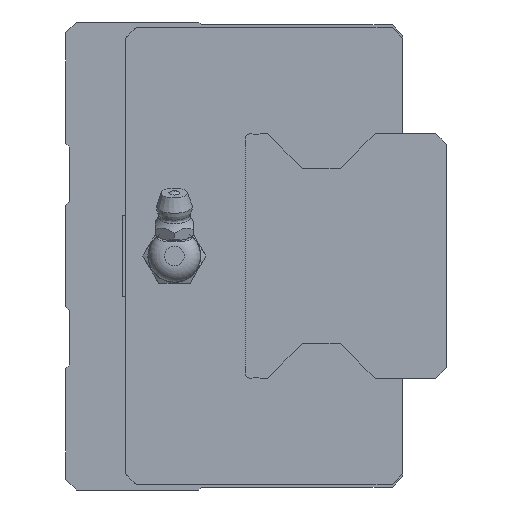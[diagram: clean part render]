
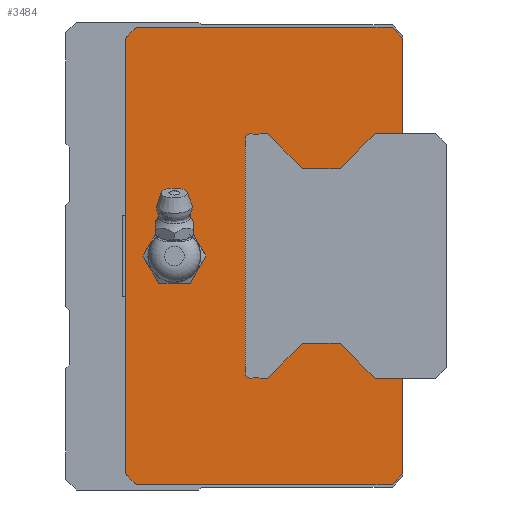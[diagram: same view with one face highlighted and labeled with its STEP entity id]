
A CAD part, left-side view. The second image highlights one B-rep face of the part: STEP entity #3484.
In plain terms, the highlighted planar face has unit normal (-1, 0, 0).
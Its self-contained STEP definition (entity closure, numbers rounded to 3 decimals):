
#157=CIRCLE('',#3797,4.989);
#158=CIRCLE('',#3798,0.26);
#159=CIRCLE('',#3799,0.26);
#160=CIRCLE('',#3800,1.);
#161=CIRCLE('',#3801,1.);
#162=CIRCLE('',#3802,0.26);
#163=CIRCLE('',#3803,0.26);
#671=ORIENTED_EDGE('',*,*,#1439,.T.);
#672=ORIENTED_EDGE('',*,*,#1440,.T.);
#673=ORIENTED_EDGE('',*,*,#1433,.F.);
#674=ORIENTED_EDGE('',*,*,#1407,.F.);
#675=ORIENTED_EDGE('',*,*,#1403,.F.);
#676=ORIENTED_EDGE('',*,*,#1395,.F.);
#677=ORIENTED_EDGE('',*,*,#1425,.F.);
#678=ORIENTED_EDGE('',*,*,#1381,.F.);
#679=ORIENTED_EDGE('',*,*,#1418,.F.);
#680=ORIENTED_EDGE('',*,*,#1415,.F.);
#681=ORIENTED_EDGE('',*,*,#1435,.F.);
#682=ORIENTED_EDGE('',*,*,#1441,.T.);
#683=ORIENTED_EDGE('',*,*,#1442,.T.);
#684=ORIENTED_EDGE('',*,*,#1443,.F.);
#685=ORIENTED_EDGE('',*,*,#1444,.T.);
#686=ORIENTED_EDGE('',*,*,#1445,.F.);
#687=ORIENTED_EDGE('',*,*,#1446,.T.);
#688=ORIENTED_EDGE('',*,*,#1447,.T.);
#689=ORIENTED_EDGE('',*,*,#1448,.T.);
#690=ORIENTED_EDGE('',*,*,#1449,.T.);
#691=ORIENTED_EDGE('',*,*,#1450,.T.);
#692=ORIENTED_EDGE('',*,*,#1451,.T.);
#693=ORIENTED_EDGE('',*,*,#1452,.T.);
#694=ORIENTED_EDGE('',*,*,#1453,.T.);
#695=ORIENTED_EDGE('',*,*,#1454,.T.);
#696=ORIENTED_EDGE('',*,*,#1455,.T.);
#697=ORIENTED_EDGE('',*,*,#1456,.T.);
#698=ORIENTED_EDGE('',*,*,#1457,.F.);
#699=ORIENTED_EDGE('',*,*,#1458,.T.);
#700=ORIENTED_EDGE('',*,*,#1459,.F.);
#701=ORIENTED_EDGE('',*,*,#1460,.T.);
#1381=EDGE_CURVE('',#1806,#1807,#2126,.T.);
#1395=EDGE_CURVE('',#1819,#1820,#2140,.T.);
#1403=EDGE_CURVE('',#1820,#1826,#2147,.T.);
#1407=EDGE_CURVE('',#1826,#1828,#2151,.T.);
#1415=EDGE_CURVE('',#1835,#1836,#2159,.T.);
#1418=EDGE_CURVE('',#1836,#1806,#2162,.T.);
#1425=EDGE_CURVE('',#1807,#1819,#2168,.T.);
#1433=EDGE_CURVE('',#1828,#1841,#2176,.T.);
#1435=EDGE_CURVE('',#1843,#1835,#2178,.T.);
#1439=EDGE_CURVE('',#1846,#1846,#157,.T.);
#1440=EDGE_CURVE('',#1847,#1841,#2182,.T.);
#1441=EDGE_CURVE('',#1843,#1848,#2183,.T.);
#1442=EDGE_CURVE('',#1848,#1849,#2184,.T.);
#1443=EDGE_CURVE('',#1850,#1849,#158,.T.);
#1444=EDGE_CURVE('',#1850,#1851,#2185,.T.);
#1445=EDGE_CURVE('',#1852,#1851,#159,.T.);
#1446=EDGE_CURVE('',#1852,#1853,#2186,.T.);
#1447=EDGE_CURVE('',#1853,#1854,#2187,.T.);
#1448=EDGE_CURVE('',#1854,#1855,#2188,.T.);
#1449=EDGE_CURVE('',#1855,#1856,#2189,.T.);
#1450=EDGE_CURVE('',#1856,#1857,#160,.T.);
#1451=EDGE_CURVE('',#1857,#1858,#2190,.T.);
#1452=EDGE_CURVE('',#1858,#1859,#161,.T.);
#1453=EDGE_CURVE('',#1859,#1860,#2191,.T.);
#1454=EDGE_CURVE('',#1860,#1861,#2192,.T.);
#1455=EDGE_CURVE('',#1861,#1862,#2193,.T.);
#1456=EDGE_CURVE('',#1862,#1863,#2194,.T.);
#1457=EDGE_CURVE('',#1864,#1863,#162,.T.);
#1458=EDGE_CURVE('',#1864,#1865,#2195,.T.);
#1459=EDGE_CURVE('',#1866,#1865,#163,.T.);
#1460=EDGE_CURVE('',#1866,#1847,#2196,.T.);
#1806=VERTEX_POINT('',#5408);
#1807=VERTEX_POINT('',#5410);
#1819=VERTEX_POINT('',#5436);
#1820=VERTEX_POINT('',#5438);
#1826=VERTEX_POINT('',#5454);
#1828=VERTEX_POINT('',#5461);
#1835=VERTEX_POINT('',#5476);
#1836=VERTEX_POINT('',#5478);
#1841=VERTEX_POINT('',#5503);
#1843=VERTEX_POINT('',#5511);
#1846=VERTEX_POINT('',#5520);
#1847=VERTEX_POINT('',#5522);
#1848=VERTEX_POINT('',#5524);
#1849=VERTEX_POINT('',#5526);
#1850=VERTEX_POINT('',#5528);
#1851=VERTEX_POINT('',#5530);
#1852=VERTEX_POINT('',#5532);
#1853=VERTEX_POINT('',#5534);
#1854=VERTEX_POINT('',#5536);
#1855=VERTEX_POINT('',#5538);
#1856=VERTEX_POINT('',#5540);
#1857=VERTEX_POINT('',#5542);
#1858=VERTEX_POINT('',#5544);
#1859=VERTEX_POINT('',#5546);
#1860=VERTEX_POINT('',#5548);
#1861=VERTEX_POINT('',#5550);
#1862=VERTEX_POINT('',#5552);
#1863=VERTEX_POINT('',#5554);
#1864=VERTEX_POINT('',#5556);
#1865=VERTEX_POINT('',#5558);
#1866=VERTEX_POINT('',#5560);
#2126=LINE('',#5409,#2440);
#2140=LINE('',#5437,#2454);
#2147=LINE('',#5453,#2461);
#2151=LINE('',#5460,#2465);
#2159=LINE('',#5477,#2473);
#2162=LINE('',#5482,#2476);
#2168=LINE('',#5493,#2482);
#2176=LINE('',#5508,#2490);
#2178=LINE('',#5513,#2492);
#2182=LINE('',#5521,#2496);
#2183=LINE('',#5523,#2497);
#2184=LINE('',#5525,#2498);
#2185=LINE('',#5529,#2499);
#2186=LINE('',#5533,#2500);
#2187=LINE('',#5535,#2501);
#2188=LINE('',#5537,#2502);
#2189=LINE('',#5539,#2503);
#2190=LINE('',#5543,#2504);
#2191=LINE('',#5547,#2505);
#2192=LINE('',#5549,#2506);
#2193=LINE('',#5551,#2507);
#2194=LINE('',#5553,#2508);
#2195=LINE('',#5557,#2509);
#2196=LINE('',#5561,#2510);
#2440=VECTOR('',#4390,1000.);
#2454=VECTOR('',#4406,1000.);
#2461=VECTOR('',#4419,1000.);
#2465=VECTOR('',#4425,1000.);
#2473=VECTOR('',#4435,1000.);
#2476=VECTOR('',#4440,1000.);
#2482=VECTOR('',#4454,1000.);
#2490=VECTOR('',#4466,1000.);
#2492=VECTOR('',#4470,1000.);
#2496=VECTOR('',#4478,1000.);
#2497=VECTOR('',#4479,1000.);
#2498=VECTOR('',#4480,1000.);
#2499=VECTOR('',#4483,1000.);
#2500=VECTOR('',#4486,1000.);
#2501=VECTOR('',#4487,1000.);
#2502=VECTOR('',#4488,1000.);
#2503=VECTOR('',#4489,1000.);
#2504=VECTOR('',#4492,1000.);
#2505=VECTOR('',#4495,1000.);
#2506=VECTOR('',#4496,1000.);
#2507=VECTOR('',#4497,1000.);
#2508=VECTOR('',#4498,1000.);
#2509=VECTOR('',#4501,1000.);
#2510=VECTOR('',#4504,1000.);
#2759=EDGE_LOOP('',(#671));
#2760=EDGE_LOOP('',(#672,#673,#674,#675,#676,#677,#678,#679,#680,#681,#682,
#683,#684,#685,#686,#687,#688,#689,#690,#691,#692,#693,#694,#695,#696,#697,
#698,#699,#700,#701));
#3078=FACE_BOUND('',#2759,.T.);
#3079=FACE_BOUND('',#2760,.T.);
#3316=PLANE('',#3796);
#3484=ADVANCED_FACE('',(#3078,#3079),#3316,.F.);
#3796=AXIS2_PLACEMENT_3D('',#5518,#4474,#4475);
#3797=AXIS2_PLACEMENT_3D('',#5519,#4476,#4477);
#3798=AXIS2_PLACEMENT_3D('',#5527,#4481,#4482);
#3799=AXIS2_PLACEMENT_3D('',#5531,#4484,#4485);
#3800=AXIS2_PLACEMENT_3D('',#5541,#4490,#4491);
#3801=AXIS2_PLACEMENT_3D('',#5545,#4493,#4494);
#3802=AXIS2_PLACEMENT_3D('',#5555,#4499,#4500);
#3803=AXIS2_PLACEMENT_3D('',#5559,#4502,#4503);
#4390=DIRECTION('',(0.,0.707,0.707));
#4406=DIRECTION('',(0.,-0.707,0.707));
#4419=DIRECTION('',(0.,-1.,0.));
#4425=DIRECTION('',(0.,-0.707,-0.707));
#4435=DIRECTION('',(0.,0.707,-0.707));
#4440=DIRECTION('',(0.,1.,0.));
#4454=DIRECTION('',(0.,0.,1.));
#4466=DIRECTION('',(0.,0.,-1.));
#4470=DIRECTION('',(0.,0.,-1.));
#4474=DIRECTION('',(1.,0.,0.));
#4475=DIRECTION('',(0.,0.,-1.));
#4476=DIRECTION('',(1.,0.,0.));
#4477=DIRECTION('',(0.,0.,-1.));
#4478=DIRECTION('',(0.,-1.,0.));
#4479=DIRECTION('',(0.,1.,0.));
#4480=DIRECTION('',(0.,0.707,0.707));
#4481=DIRECTION('',(1.,0.,0.));
#4482=DIRECTION('',(0.,0.,-1.));
#4483=DIRECTION('',(0.,1.,0.));
#4484=DIRECTION('',(1.,0.,0.));
#4485=DIRECTION('',(0.,0.,-1.));
#4486=DIRECTION('',(0.,0.707,-0.707));
#4487=DIRECTION('',(0.,1.,0.));
#4488=DIRECTION('',(0.,0.707,0.707));
#4489=DIRECTION('',(0.,1.,0.));
#4490=DIRECTION('',(1.,0.,0.));
#4491=DIRECTION('',(0.,0.,-1.));
#4492=DIRECTION('',(0.,0.,1.));
#4493=DIRECTION('',(1.,0.,0.));
#4494=DIRECTION('',(0.,0.,-1.));
#4495=DIRECTION('',(0.,-1.,0.));
#4496=DIRECTION('',(0.,-0.707,0.707));
#4497=DIRECTION('',(0.,-1.,0.));
#4498=DIRECTION('',(0.,-0.707,-0.707));
#4499=DIRECTION('',(1.,0.,0.));
#4500=DIRECTION('',(0.,0.,-1.));
#4501=DIRECTION('',(0.,-1.,0.));
#4502=DIRECTION('',(1.,0.,0.));
#4503=DIRECTION('',(0.,0.,-1.));
#4504=DIRECTION('',(0.,-0.707,0.707));
#5408=CARTESIAN_POINT('',(-95.,49.,-42.));
#5409=CARTESIAN_POINT('',(-95.,49.,-42.));
#5410=CARTESIAN_POINT('',(-95.,51.,-40.));
#5436=CARTESIAN_POINT('',(-95.,51.,40.));
#5437=CARTESIAN_POINT('',(-95.,51.,40.));
#5438=CARTESIAN_POINT('',(-95.,49.,42.));
#5453=CARTESIAN_POINT('',(-95.,49.,42.));
#5454=CARTESIAN_POINT('',(-95.,2.,42.));
#5460=CARTESIAN_POINT('',(-95.,2.,42.));
#5461=CARTESIAN_POINT('',(-95.,0.,40.));
#5476=CARTESIAN_POINT('',(-95.,0.,-40.));
#5477=CARTESIAN_POINT('',(-95.,0.,-40.));
#5478=CARTESIAN_POINT('',(-95.,2.,-42.));
#5482=CARTESIAN_POINT('',(-95.,2.,-42.));
#5493=CARTESIAN_POINT('',(-95.,51.,-40.));
#5503=CARTESIAN_POINT('',(-95.,0.,22.5));
#5508=CARTESIAN_POINT('',(-95.,0.,40.));
#5511=CARTESIAN_POINT('',(-95.,0.,-22.5));
#5513=CARTESIAN_POINT('',(-95.,0.,40.));
#5518=CARTESIAN_POINT('',(-95.,0.,0.));
#5519=CARTESIAN_POINT('',(-95.,42.,0.));
#5520=CARTESIAN_POINT('',(-95.,42.,-4.989));
#5521=CARTESIAN_POINT('',(-95.,5.1,22.5));
#5522=CARTESIAN_POINT('',(-95.,5.1,22.5));
#5523=CARTESIAN_POINT('',(-95.,-6.,-22.5));
#5524=CARTESIAN_POINT('',(-95.,5.1,-22.5));
#5525=CARTESIAN_POINT('',(-95.,5.1,-22.5));
#5526=CARTESIAN_POINT('',(-95.,11.524,-16.076));
#5527=CARTESIAN_POINT('',(-95.,11.708,-16.26));
#5528=CARTESIAN_POINT('',(-95.,11.708,-16.));
#5529=CARTESIAN_POINT('',(-95.,11.708,-16.));
#5530=CARTESIAN_POINT('',(-95.,18.292,-16.));
#5531=CARTESIAN_POINT('',(-95.,18.292,-16.26));
#5532=CARTESIAN_POINT('',(-95.,18.476,-16.076));
#5533=CARTESIAN_POINT('',(-95.,18.476,-16.076));
#5534=CARTESIAN_POINT('',(-95.,24.9,-22.5));
#5535=CARTESIAN_POINT('',(-95.,24.9,-22.5));
#5536=CARTESIAN_POINT('',(-95.,26.25,-22.5));
#5537=CARTESIAN_POINT('',(-95.,26.25,-22.5));
#5538=CARTESIAN_POINT('',(-95.,26.5,-22.25));
#5539=CARTESIAN_POINT('',(-95.,26.5,-22.25));
#5540=CARTESIAN_POINT('',(-95.,27.339,-22.25));
#5541=CARTESIAN_POINT('',(-95.,28.,-21.5));
#5542=CARTESIAN_POINT('',(-95.,29.,-21.5));
#5543=CARTESIAN_POINT('',(-95.,29.,-21.5));
#5544=CARTESIAN_POINT('',(-95.,29.,21.5));
#5545=CARTESIAN_POINT('',(-95.,28.,21.5));
#5546=CARTESIAN_POINT('',(-95.,27.339,22.25));
#5547=CARTESIAN_POINT('',(-95.,27.339,22.25));
#5548=CARTESIAN_POINT('',(-95.,26.5,22.25));
#5549=CARTESIAN_POINT('',(-95.,26.5,22.25));
#5550=CARTESIAN_POINT('',(-95.,26.25,22.5));
#5551=CARTESIAN_POINT('',(-95.,26.25,22.5));
#5552=CARTESIAN_POINT('',(-95.,24.9,22.5));
#5553=CARTESIAN_POINT('',(-95.,24.9,22.5));
#5554=CARTESIAN_POINT('',(-95.,18.476,16.076));
#5555=CARTESIAN_POINT('',(-95.,18.292,16.26));
#5556=CARTESIAN_POINT('',(-95.,18.292,16.));
#5557=CARTESIAN_POINT('',(-95.,18.292,16.));
#5558=CARTESIAN_POINT('',(-95.,11.708,16.));
#5559=CARTESIAN_POINT('',(-95.,11.708,16.26));
#5560=CARTESIAN_POINT('',(-95.,11.524,16.076));
#5561=CARTESIAN_POINT('',(-95.,11.524,16.076));
